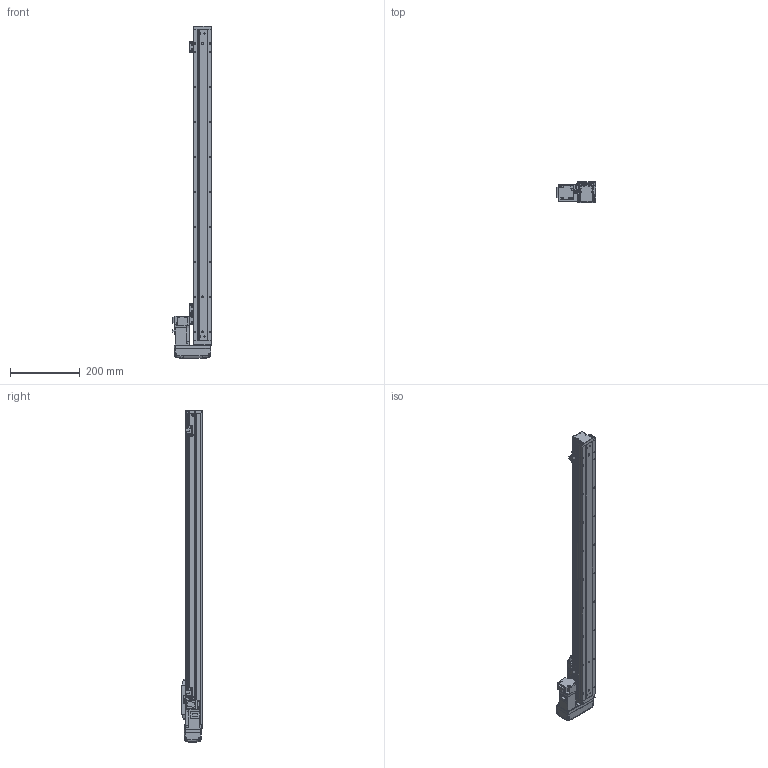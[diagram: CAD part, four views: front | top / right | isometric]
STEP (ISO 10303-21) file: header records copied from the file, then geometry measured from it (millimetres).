
FILE_DESCRIPTION (( 'STEP AP203' ), '1' );
FILE_NAME ('GTH5-750-BL-M10-C4.step', '2022-09-23T00:45:32', ( '微软用户' ), ( '微软中国' ), 'SwSTEP 2.0', 'SolidWorks 2020', '' );
FILE_SCHEMA (( 'CONFIG_CONTROL_DESIGN' ));
Length unit declared in the file: millimetre
Products named in the file (19): GTH50-027-1_BTHA50-027-2; BTH-M3X5X6; GBT96.1-2002 3×0.8; GTH50-026; GTH50-001_750; GTH50-024; GTH5-750-BL-M10-C4; GBT 70.1-M4×16; GBT 70.1-M2.5×6; GTH50-003; GTH50-028; GTH50-006; GTH50-013; GTH50-022-1; GTH50-004; GTH50-023; HG-KR13; GBT 70.3-M3℅6; GBT 70.1-M3℅6
Assembly tree (57 placements, depth 2):
  GTH5-750-BL-M10-C4
    GTH50-006
    GTH50-004
    GBT 70.3-M3℅6  x4
    BTH-M3X5X6  x8
    GTH50-001_750
    GBT 70.1-M4×16  x8
    GTH50-003
    GTH50-013
    GTH50-023  x3
    GBT 70.1-M3℅6  x12
    GBT96.1-2002 3×0.8  x6
    GTH50-024  x3
    GBT 70.1-M2.5×6  x2
    GTH50-028  x2
    GTH50-022-1
    HG-KR13
    GTH50-027-1_BTHA50-027-2
    GTH50-026
Bounding box: 113.8 x 60 x 950 mm (x, y, z)
Volume: 2123371.6 mm3; surface area: 341315.4 mm2
Topology: 59 solids, 59 shells, 2168 faces, 5040 edges, 3092 vertices
Faces by surface type: plane 1142, cylinder 597, cone 219, torus 162, bspline 40, sphere 8
Entity records: 40456 total; most frequent: CARTESIAN_POINT 7995, DIRECTION 6241, ORIENTED_EDGE 5994, EDGE_CURVE 2997, AXIS2_PLACEMENT_3D 2176, VERTEX_POINT 1894, LINE 1889, VECTOR 1889
